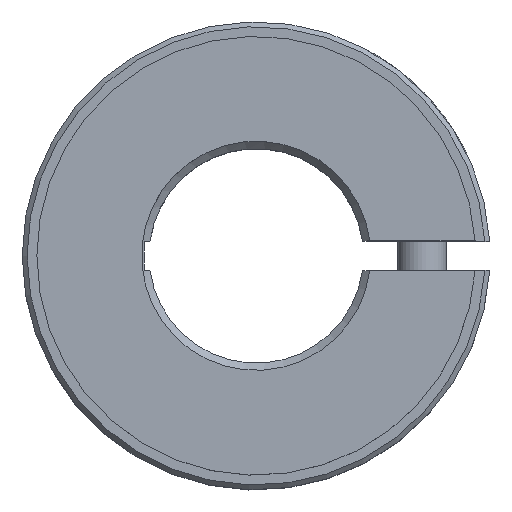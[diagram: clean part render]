
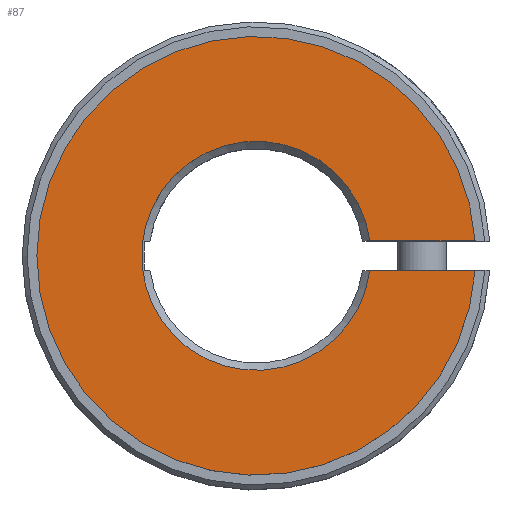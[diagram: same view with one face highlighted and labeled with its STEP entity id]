
A CAD part, top view. The second image highlights one B-rep face of the part: STEP entity #87.
In plain terms, the highlighted planar face has unit normal (0, 0, 1).
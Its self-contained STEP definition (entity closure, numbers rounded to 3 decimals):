
#87 = ADVANCED_FACE( '', ( #138 ), #139, .T. );
#138 = FACE_OUTER_BOUND( '', #221, .T. );
#139 = PLANE( '', #222 );
#221 = EDGE_LOOP( '', ( #379, #380, #381, #382 ) );
#222 = AXIS2_PLACEMENT_3D( '', #383, #384, #385 );
#379 = ORIENTED_EDGE( '', *, *, #599, .F. );
#380 = ORIENTED_EDGE( '', *, *, #587, .T. );
#381 = ORIENTED_EDGE( '', *, *, #600, .T. );
#382 = ORIENTED_EDGE( '', *, *, #592, .T. );
#383 = CARTESIAN_POINT( '', ( 0., 22.5, 10.5 ) );
#384 = DIRECTION( '', ( 0., 0., 1. ) );
#385 = DIRECTION( '', ( 1., 0., 0. ) );
#587 = EDGE_CURVE( '', #701, #699, #702, .T. );
#592 = EDGE_CURVE( '', #710, #708, #711, .T. );
#599 = EDGE_CURVE( '', #701, #708, #720, .T. );
#600 = EDGE_CURVE( '', #699, #710, #721, .T. );
#699 = VERTEX_POINT( '', #958 );
#701 = VERTEX_POINT( '', #961 );
#702 = LINE( '', #962, #963 );
#708 = VERTEX_POINT( '', #972 );
#710 = VERTEX_POINT( '', #975 );
#711 = LINE( '', #976, #977 );
#720 = CIRCLE( '', #991, 22.5 );
#721 = CIRCLE( '', #992, 11.75 );
#958 = CARTESIAN_POINT( '', ( 11.65, -1.53, 10.5 ) );
#961 = CARTESIAN_POINT( '', ( 22.448, -1.53, 10.5 ) );
#962 = CARTESIAN_POINT( '', ( 0., -1.53, 10.5 ) );
#963 = VECTOR( '', #1128, 1000. );
#972 = CARTESIAN_POINT( '', ( 22.448, 1.53, 10.5 ) );
#975 = CARTESIAN_POINT( '', ( 11.65, 1.53, 10.5 ) );
#976 = CARTESIAN_POINT( '', ( 0., 1.53, 10.5 ) );
#977 = VECTOR( '', #1133, 1000. );
#991 = AXIS2_PLACEMENT_3D( '', #1145, #1146, #1147 );
#992 = AXIS2_PLACEMENT_3D( '', #1148, #1149, #1150 );
#1128 = DIRECTION( '', ( -1., 0., 0. ) );
#1133 = DIRECTION( '', ( 1., 0., 0. ) );
#1145 = CARTESIAN_POINT( '', ( 0., 0., 10.5 ) );
#1146 = DIRECTION( '', ( 0., 0., -1. ) );
#1147 = DIRECTION( '', ( -1., 0., 0. ) );
#1148 = CARTESIAN_POINT( '', ( 0., 0., 10.5 ) );
#1149 = DIRECTION( '', ( 0., 0., -1. ) );
#1150 = DIRECTION( '', ( -1., 0., 0. ) );
